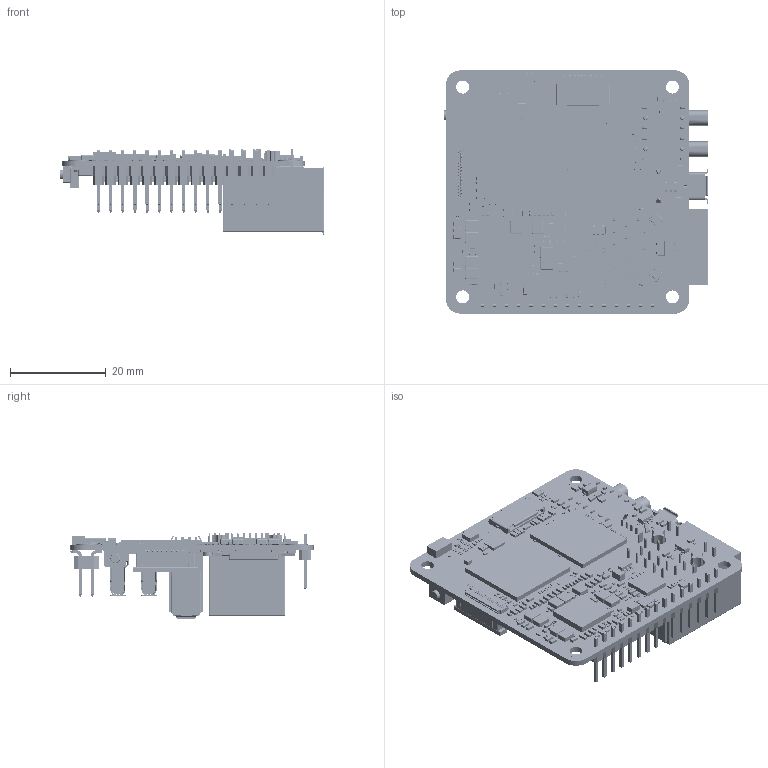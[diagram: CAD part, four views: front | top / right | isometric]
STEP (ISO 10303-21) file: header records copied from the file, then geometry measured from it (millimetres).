
FILE_DESCRIPTION((''),'2;1');
FILE_NAME('RS504_V110_20251022A_ASM','2025-12-29T14:27:03',('Owen'),(''),'CREO PARAMETRIC BY PTC INC, 2025123','CREO PARAMETRIC BY PTC INC, 2025123','');
FILE_SCHEMA(('CONFIG_CONTROL_DESIGN','SHAPE_APPEARANCE_LAYERS_GROUPS'));
Products named in the file (75): RS504_V110_20251022A; LGA22_1D27_12D2_13D0; L_2016; SOT563; FBGA315_0D8_12D4; WLCSP12_0D4_1D2; CON_SM3_0D8; HOLE_4D5_2D7; CML_SM6_0D55_1; QFN40_0D4_5; FPC_31P_0D3_LIE; QFN14_0D5_2D5; SOD_123; FB0402; QFN24_0D5_4; SOT_323; OSC_SM4_3D2X2D5; BGA153_0D5_11D5; BGA570_0D4_15; BGA147_0D5_8; FB0603; LED_D0603; L_2520; RF_SM3_3X2D6; MARK; TP32; SOT_723; OSC_SM4_2D5X2D0; LC1210; SOT_23; DFN1006-2L; SOT23_5; OSC_SM2_3D2X1D5; C0201; C0603; C0402; R0201; R0402; R0603; 1555298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
Assembly tree (601 placements, depth 4):
  RS504_V110_20251022A_ASM
    RS504_V110_20251022A
    LGA22_1D27_12D2_13D0
    L_2016
    SOT563
    FBGA315_0D8_12D4
    WLCSP12_0D4_1D2
    CON_SM3_0D8
    HOLE_4D5_2D7  x4
    CML_SM6_0D55_1  x4
    QFN40_0D4_5
    FPC_31P_0D3_LIE
    QFN14_0D5_2D5
    SOD_123
    FB0402
    QFN24_0D5_4
    SOT_323
    OSC_SM4_3D2X2D5
    BGA153_0D5_11D5
    BGA570_0D4_15
    BGA147_0D5_8
    FB0603  x3
    LED_D0603  x2
    L_2520  x10
    RF_SM3_3X2D6
    MARK  x4
    TP32
    SOT_723
    OSC_SM4_2D5X2D0
    LC1210  x8
    SOT_23  x2
    DFN1006-2L  x15
    SOT23_5  x3
    OSC_SM2_3D2X1D5
    C0201  x207
    C0603  x55
    C0402  x46
    R0201  x129
    R0402  x44
    R0603  x6
    1555298
    LEY_4_4
    HDR-TH_15P-P2_54-V-M_HDR-TH_15P
    LPJG0926HENL
    BUSF242B3N11735-USB3_1_TYPE_CF__ASM  x2
      TYPEC__SMT_4_2_0001_ASM
        MAIN_1_4
        INT_SHELL0
    USB-A-TH_906-452A1012D10200_USB_ASM
      USB-A-TH_906-452A1012D10200_U_1
      USB-A-TH_906-452A1012D10200_U_2
      USB-A-TH_906-452A1012D10200_U_3
      USB-A-TH_906-452A1012D10200_U_4
      USB-A-TH_906-452A1012D10200_U_5
      USB-A-TH_906-452A1012D10200_U_6
    FPC1_FPC-SMD_16P-P0_50_HDGC_0_5_ASM
      FPC-SMD_16P-P0_50_HDGC_0_5K-A-1_ASM
        FPC-SMD_16P-P0_50_HDGC_0_5K-A_1
        FPC-SMD_16P-P0_50_HDGC_0_5K-A_2
        FPC-SMD_16P-P0_50_HDGC_0_5K-A_3
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Bounding box: 55.27 x 50.8 x 17.92 mm (x, y, z)
Volume: 10111 mm3; surface area: 18821.5 mm2
Topology: 491 solids, 716 shells, 35257 faces, 84848 edges, 45959 vertices
Faces by surface type: plane 15355, cylinder 13679, sphere 4858, torus 1154, bspline 85, extrusion 64, cone 62
Entity records: 235900 total; most frequent: CARTESIAN_POINT 46892, ORIENTED_EDGE 38952, DIRECTION 37587, EDGE_CURVE 19498, VECTOR 16037, LINE 15983, VERTEX_POINT 12505, AXIS2_PLACEMENT_3D 10775
